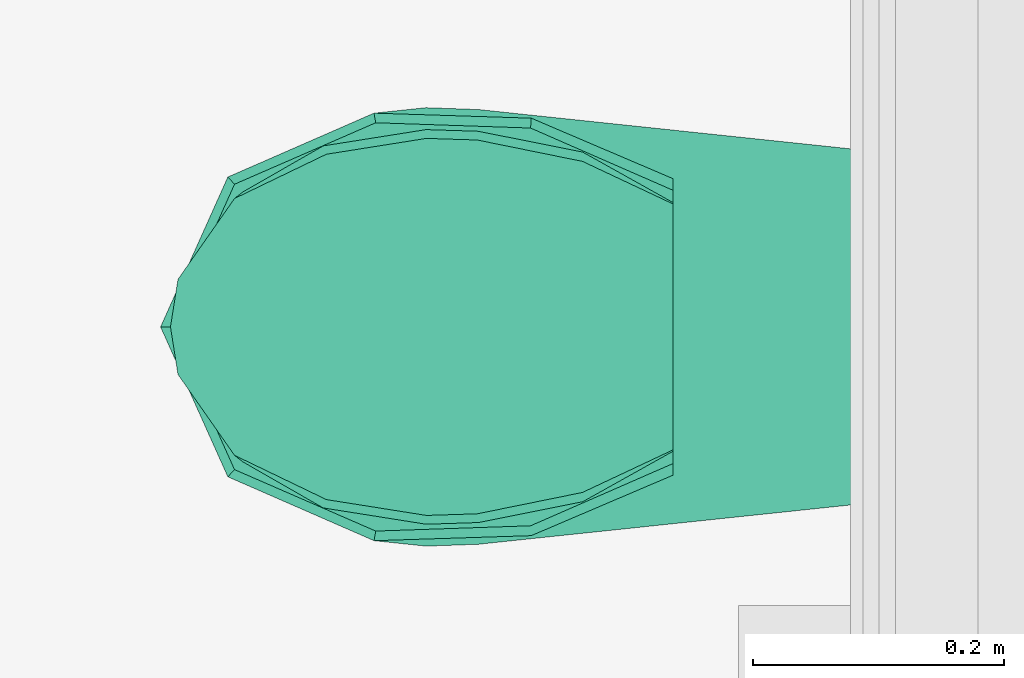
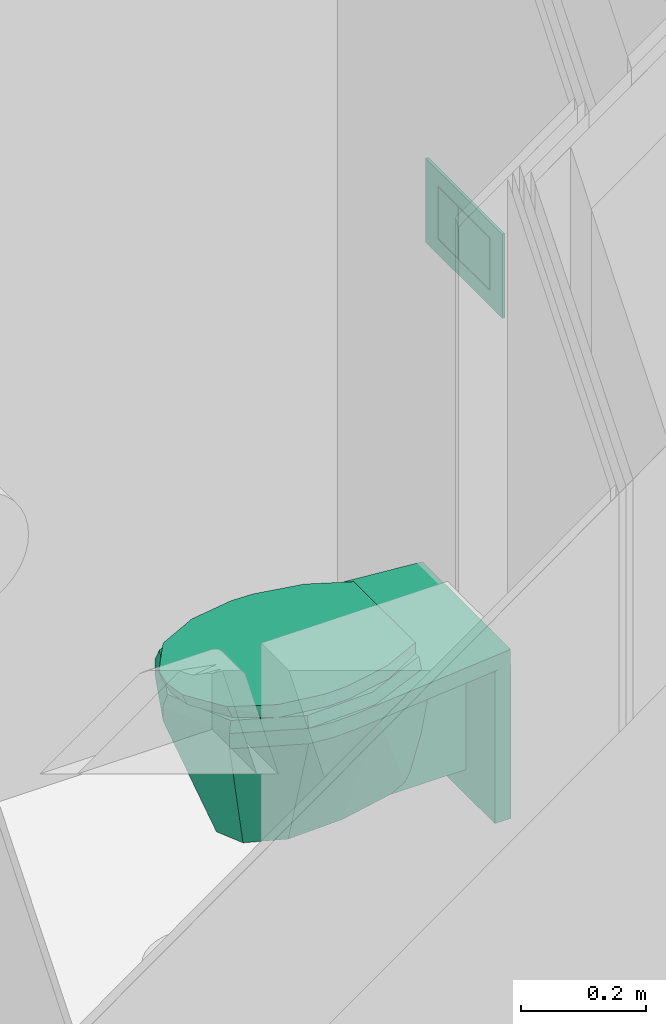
# One storey, part 243 of 301: 1 flow terminal.
"""IFC2X3 building model written with IfcOpenShell, lengths in millimetres."""

from ifc_helpers import new_model, entity, si_unit, converted_unit, derived_unit, money_unit, direction, frame, origin_with_axes, place, context, subcontext, project, spatial, faceted_brep, source, transform, mapped, type_object, element, save


model = new_model("IFC2X3")

# Units and contexts
model_context = context("Model", 3, precision=0.01, world=origin_with_axes(), true_north=direction((0.0, 1.0)))
body_context = subcontext(model_context, "Body", "Model", "MODEL_VIEW")
ifc_project = project(units=[si_unit("LENGTHUNIT", "METRE", prefix="MILLI"), si_unit("AREAUNIT", "SQUARE_METRE"), si_unit("VOLUMEUNIT", "CUBIC_METRE"), converted_unit("PLANEANGLEUNIT", "DEGREE", entity("IfcPlaneAngleMeasure", 0.0174532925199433), si_unit("PLANEANGLEUNIT", "RADIAN"), dimensions=[0, 0, 0, 0, 0, 0, 0]), money_unit("EUR"), converted_unit("TIMEUNIT", "Year", entity("IfcTimeMeasure", 31557600.0), si_unit("TIMEUNIT", "SECOND"), dimensions=[0, 0, 1, 0, 0, 0, 0]), si_unit("MASSUNIT", "GRAM", prefix="KILO"), si_unit("THERMODYNAMICTEMPERATUREUNIT", "DEGREE_CELSIUS"), si_unit("LUMINOUSINTENSITYUNIT", "LUMEN"), si_unit("ENERGYUNIT", "JOULE", prefix="MEGA"), derived_unit("THERMALCONDUCTANCEUNIT", [(si_unit("POWERUNIT", "WATT"), 1), (si_unit("LENGTHUNIT", "METRE"), -1), (si_unit("THERMODYNAMICTEMPERATUREUNIT", "KELVIN"), -1)]), derived_unit("SPECIFICHEATCAPACITYUNIT", [(si_unit("ENERGYUNIT", "JOULE"), 1), (si_unit("MASSUNIT", "GRAM", prefix="KILO"), -1), (si_unit("THERMODYNAMICTEMPERATUREUNIT", "KELVIN"), -1)]), derived_unit("MASSDENSITYUNIT", [(si_unit("MASSUNIT", "GRAM", prefix="KILO"), 1), (si_unit("VOLUMEUNIT", "CUBIC_METRE"), -1)])], contexts=[model_context])

# Site, building, storey
site_placement = place(None, frame((0.0, 0.0, 8650.0), z_axis=(0.0, 0.0, 1.0), x_axis=(1.0, 0.0, 0.0)))
site = spatial("IfcSite", under=ifc_project, at=site_placement, Name="43301:001:0844", CompositionType="ELEMENT")
building_placement = place(site_placement, origin_with_axes())
building = spatial("IfcBuilding", under=site, at=building_placement, Name="Kuressaare Ametikooli tuulikute mehaanikute õppekorpus", CompositionType="ELEMENT")
storey_placement = place(building_placement, origin_with_axes())
storey = spatial("IfcBuildingStorey", under=building, at=storey_placement, Name="1.korrus", CompositionType="ELEMENT", Elevation=0.0)

# Flow terminal
sanitary_terminal_type = type_object("IfcSanitaryTerminalType", Name="WC 27", PredefinedType="NOTDEFINED")
shared_shape = source(origin_with_axes(), body_context, "Body", "Brep", [
    faceted_brep([(-141.0283315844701, -29.31865370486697, 69.99999999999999), (-141.0283315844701, 0.4949050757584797, 69.99999999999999), (141.0283315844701, 0.4949050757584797, 69.99999999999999), (141.0283315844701, -29.31865370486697, 69.99999999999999), (-141.0283315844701, -29.31865370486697, 370.0), (-141.0283315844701, 0.4949050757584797, 370.0), (141.0283315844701, 0.4949050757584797, 370.0), (141.0283315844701, -29.31865370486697, 370.0)], [[[0, 1, 2, 3]], [[0, 4, 5, 1]], [[1, 5, 6, 2]], [[2, 6, 7, 3]], [[3, 7, 4, 0]], [[7, 6, 5, 4]]]),
    faceted_brep([(-101.7881776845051, -122.4661491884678, 370.0), (-164.8111927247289, -257.2969749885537, 370.0), (-170.4738719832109, -389.7973742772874, 370.0), (-119.554809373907, -506.3435444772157, 370.0), (0.0, -560.0, 370.0), (119.554809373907, -506.3435444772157, 370.0), (170.4738719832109, -389.7973742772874, 370.0), (164.8111927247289, -257.295981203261, 370.0), (101.7881776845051, -122.4661491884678, 370.0), (48.96817068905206, -87.43521908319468, 370.0), (48.96817068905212, -29.31865370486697, 370.0), (-48.96817068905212, -29.31865370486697, 370.0), (-48.96817068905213, -87.43521908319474, 370.0), (-63.65862189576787, -201.5126978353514, 370.0), (0.0, -179.8771255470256, 370.0), (63.65862189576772, -201.5126978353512, 370.0), (110.2599674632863, -260.6221805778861, 370.0), (127.3172437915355, -341.3672356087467, 370.0), (110.2599674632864, -422.1122906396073, 370.0), (63.65862189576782, -481.2217733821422, 370.0), (0.0, -502.8573456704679, 370.0), (-63.65862189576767, -481.2217733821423, 370.0), (-110.2599674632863, -422.1122906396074, 370.0), (-127.3172437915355, -341.3672356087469, 370.0), (-110.2599674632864, -260.6221805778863, 370.0), (-70.97348723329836, -270.8651255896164, 120.0), (-74.94382651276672, -372.4786779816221, 120.0), (-47.75865687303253, -440.0938417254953, 120.0), (0.0, -461.5278029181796, 120.0), (47.75865687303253, -440.0938417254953, 120.0), (74.94382651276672, -372.4786779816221, 120.0), (70.97348723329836, -270.8651255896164, 120.0), (48.96817068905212, -141.8100147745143, 135.0708656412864), (48.96817068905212, -132.9294031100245, 150.8349994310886), (48.96817068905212, -111.9632571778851, 220.0911688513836), (48.96817068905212, -168.852251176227, 120.0), (48.96817068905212, -29.31865370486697, 120.0), (-48.96817068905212, -29.31865370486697, 120.0), (-48.96817068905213, -168.852251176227, 120.0), (-48.96817068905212, -132.9294031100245, 150.8349994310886), (-24.48408534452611, -287.5770287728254, 170.0), (0.0, -279.2556548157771, 170.0), (24.48408534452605, -287.5770287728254, 170.0), (42.40767979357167, -310.3114452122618, 170.0), (48.96817068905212, -341.3672356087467, 170.0), (42.40767979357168, -372.4230260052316, 170.0), (24.48408534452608, -395.1574424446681, 170.0), (0.0, -403.4788164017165, 170.0), (-24.48408534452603, -395.1574424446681, 170.0), (-42.40767979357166, -372.4230260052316, 170.0), (-48.96817068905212, -341.3672356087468, 170.0), (-42.4076797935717, -310.311445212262, 170.0)], [[[0, 1, 2, 3, 4, 5, 6, 7, 8, 9, 10, 11, 12], [13, 14, 15, 16, 17, 18, 19, 20, 21, 22, 23, 24]], [[0, 25, 1]], [[1, 26, 2]], [[2, 27, 3]], [[3, 28, 4]], [[4, 29, 5]], [[5, 30, 6]], [[6, 31, 7]], [[8, 7, 32, 33]], [[8, 34, 9]], [[33, 32, 35, 36, 10, 9, 34]], [[10, 36, 37, 11]], [[12, 11, 37, 38, 39]], [[0, 12, 39]], [[13, 40, 41, 14]], [[14, 41, 42, 15]], [[15, 42, 43, 16]], [[16, 43, 44, 17]], [[17, 44, 45, 18]], [[18, 45, 46, 19]], [[19, 46, 47, 20]], [[20, 47, 48, 21]], [[21, 48, 49, 22]], [[22, 49, 50, 23]], [[23, 50, 51, 24]], [[24, 51, 40, 13]], [[25, 0, 39, 38]], [[25, 26, 1]], [[26, 27, 2]], [[27, 28, 3]], [[28, 29, 4]], [[29, 30, 5]], [[30, 31, 6]], [[7, 31, 35, 32]], [[8, 33, 34]], [[31, 30, 29, 28, 27, 26, 25, 38, 37, 36, 35]], [[40, 51, 50, 49, 48, 47, 46, 45, 44, 43, 42, 41]]]),
    faceted_brep([(174.8222455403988, -348.2949128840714, 370.0), (170.4738719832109, -389.7973742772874, 370.0), (119.554809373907, -506.3435444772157, 370.0), (0.0, -560.0, 370.0), (-119.554809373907, -506.3435444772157, 370.0), (-170.4738719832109, -389.7973742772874, 370.0), (-174.8222455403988, -348.2949128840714, 370.0), (-173.3473242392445, -306.5847503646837, 370.0), (-140.975445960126, 0.0, 370.0), (140.9734872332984, 0.0, 370.0), (173.3473242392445, -306.5847503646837, 370.0), (-83.6883665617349, -472.7512164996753, 370.0), (0.0, -510.3107353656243, 370.0), (83.6883665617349, -472.7512164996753, 370.0), (119.3317103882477, -391.1688973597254, 370.0), (122.3755718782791, -362.1171743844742, 370.0), (121.3431269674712, -332.9200606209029, 370.0), (98.68144106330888, -201.7886999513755, 370.0), (-98.68281217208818, -201.7886999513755, 370.0), (-121.3431269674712, -332.9200606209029, 370.0), (-122.3755718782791, -362.1171743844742, 370.0), (-119.3317103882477, -391.1688973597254, 370.0), (174.8222455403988, -348.2949128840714, 400.0), (170.4738719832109, -389.7973742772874, 400.0), (119.554809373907, -506.3435444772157, 400.0), (0.0, -560.0, 400.0), (-119.554809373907, -506.3435444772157, 400.0), (-170.4738719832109, -389.7973742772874, 400.0), (-174.8222455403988, -348.2949128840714, 400.0), (-173.3473242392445, -306.5847503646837, 400.0), (-140.975445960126, 0.0, 400.0), (140.9734872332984, 0.0, 400.0), (173.3473242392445, -306.5847503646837, 400.0), (0.0, -510.3107353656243, 400.0), (-83.6883665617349, -472.7512164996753, 400.0), (83.6883665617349, -472.7512164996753, 400.0), (119.3317103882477, -391.1688973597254, 400.0), (122.3755718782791, -362.1171743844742, 400.0), (121.3431269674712, -332.9200606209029, 400.0), (98.68144106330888, -201.7886999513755, 400.0), (-98.68281217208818, -201.7886999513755, 400.0), (-121.3431269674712, -332.9200606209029, 400.0), (-122.3755718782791, -362.1171743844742, 400.0), (-119.3317103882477, -391.1688973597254, 400.0)], [[[0, 1, 2, 3, 4, 5, 6, 7, 8, 9, 10], [11, 12, 13, 14, 15, 16, 17, 18, 19, 20, 21]], [[22, 23, 1, 0]], [[23, 24, 2, 1]], [[24, 25, 3, 2]], [[25, 26, 4, 3]], [[26, 27, 5, 4]], [[27, 28, 6, 5]], [[28, 29, 7, 6]], [[29, 30, 8, 7]], [[30, 31, 9, 8]], [[31, 32, 10, 9]], [[32, 22, 0, 10]], [[33, 12, 11, 34]], [[35, 13, 12, 33]], [[36, 14, 13, 35]], [[37, 15, 14, 36]], [[38, 16, 15, 37]], [[39, 17, 16, 38]], [[40, 18, 17, 39]], [[41, 19, 18, 40]], [[42, 20, 19, 41]], [[43, 21, 20, 42]], [[34, 11, 21, 43]], [[31, 30, 29, 28, 27, 26, 25, 24, 23, 22, 32], [40, 39, 38, 37, 36, 35, 33, 34, 43, 42, 41]]]),
    faceted_brep([(-170.4738719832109, -389.7973742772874, 400.0), (-166.4663168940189, -264.4263906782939, 400.0), (-118.2121021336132, -151.3163525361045, 400.0), (118.2121021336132, -151.3163525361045, 400.0), (166.4663168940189, -264.4263906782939, 400.0), (170.4738719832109, -389.7973742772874, 400.0), (119.554809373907, -506.3435444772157, 400.0), (0.0, -560.0, 400.0), (-119.554809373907, -506.3435444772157, 400.0), (-87.07689659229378, -411.9963613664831, 400.0), (-76.4888004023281, -438.0775703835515, 400.0), (-62.06856874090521, -459.4262123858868, 400.0), (-44.26109835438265, -474.4067566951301, 400.0), (-23.02579943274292, -483.9023013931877, 400.0), (0.0, -487.1544663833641, 400.0), (23.02579943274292, -483.9023013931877, 400.0), (44.26109835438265, -474.4067566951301, 400.0), (62.06856874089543, -459.4262123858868, 400.0), (76.4888004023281, -438.0775703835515, 400.0), (87.07689659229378, -411.9963613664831, 400.0), (94.51085540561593, -382.2763031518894, 400.0), (97.71606496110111, -351.7983255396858, 400.0), (96.61425296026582, -320.7429308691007, 400.0), (90.99294096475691, -286.7942733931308, 400.0), (81.3289539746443, -253.3384220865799, 400.0), (68.75412876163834, -223.4663237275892, 400.0), (-68.75448552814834, -223.4663237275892, 400.0), (-81.32886310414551, -253.3381075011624, 400.0), (-90.99294096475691, -286.7942733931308, 400.0), (-96.61425296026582, -320.7429308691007, 400.0), (-97.71606496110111, -351.7983255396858, 400.0), (-94.51085540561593, -382.2763031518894, 400.0), (-158.5902763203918, -264.9332211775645, 420.0000000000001), (-108.940468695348, -151.3163525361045, 420.0000000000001), (108.940468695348, -151.3163525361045, 420.0000000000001), (158.5902763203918, -264.9332211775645, 420.0000000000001), (162.8034977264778, -388.4070686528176, 420.0000000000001), (113.7912556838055, -501.0248055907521, 420.0000000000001), (0.0, -552.0944379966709, 420.0000000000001), (-113.7912556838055, -501.0248055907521, 420.0000000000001), (-162.8034977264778, -388.4070686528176, 420.0000000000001), (-76.4888004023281, -438.0775703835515, 420.0000000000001), (-87.07689659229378, -411.9963613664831, 420.0000000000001), (-62.06856874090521, -459.4262123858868, 420.0000000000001), (-44.26109835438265, -474.4067566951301, 420.0000000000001), (-23.02579943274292, -483.9023013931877, 420.0000000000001), (0.0, -487.1544663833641, 420.0000000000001), (23.02579943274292, -483.9023013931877, 420.0000000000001), (44.26109835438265, -474.4067566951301, 420.0000000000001), (62.06856874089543, -459.4262123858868, 420.0000000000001), (76.4888004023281, -438.0775703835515, 420.0000000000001), (87.07689659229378, -411.9963613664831, 420.0000000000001), (94.51085540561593, -382.2763031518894, 420.0000000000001), (97.71606496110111, -351.7983255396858, 420.0000000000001), (96.61425296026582, -320.7429308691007, 420.0000000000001), (90.99294096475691, -286.7942733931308, 420.0000000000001), (81.3289539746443, -253.3384220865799, 420.0000000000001), (68.75412876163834, -223.4663237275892, 420.0000000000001), (-68.75448552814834, -223.4663237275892, 420.0000000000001), (-81.32886310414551, -253.3381075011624, 420.0000000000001), (-90.99294096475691, -286.7942733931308, 420.0000000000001), (-96.61425296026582, -320.7429308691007, 420.0000000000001), (-97.71606496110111, -351.7983255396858, 420.0000000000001), (-94.51085540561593, -382.2763031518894, 420.0000000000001)], [[[0, 1, 2, 3, 4, 5, 6, 7, 8], [9, 10, 11, 12, 13, 14, 15, 16, 17, 18, 19, 20, 21, 22, 23, 24, 25, 26, 27, 28, 29, 30, 31]], [[0, 32, 1]], [[1, 33, 2]], [[3, 2, 33, 34]], [[3, 35, 4]], [[4, 36, 5]], [[5, 37, 6]], [[6, 38, 7]], [[7, 39, 8]], [[8, 40, 0]], [[41, 10, 9, 42]], [[43, 11, 10, 41]], [[44, 12, 11, 43]], [[45, 13, 12, 44]], [[46, 14, 13, 45]], [[47, 15, 14, 46]], [[48, 16, 15, 47]], [[49, 17, 16, 48]], [[50, 18, 17, 49]], [[51, 19, 18, 50]], [[52, 20, 19, 51]], [[53, 21, 20, 52]], [[54, 22, 21, 53]], [[55, 23, 22, 54]], [[56, 24, 23, 55]], [[57, 25, 24, 56]], [[58, 26, 25, 57]], [[59, 27, 26, 58]], [[60, 28, 27, 59]], [[61, 29, 28, 60]], [[62, 30, 29, 61]], [[63, 31, 30, 62]], [[42, 9, 31, 63]], [[0, 40, 32]], [[1, 32, 33]], [[34, 33, 32, 40, 39, 38, 37, 36, 35], [60, 59, 58, 57, 56, 55, 54, 53, 52, 51, 50, 49, 48, 47, 46, 45, 44, 43, 41, 42, 63, 62, 61]], [[3, 34, 35]], [[4, 35, 36]], [[5, 36, 37]], [[6, 37, 38]], [[7, 38, 39]], [[8, 39, 40]]]),
    faceted_brep([(107.5993284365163, -494.4181209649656, 420.0000000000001), (37.93662119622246, -546.1188070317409, 440.0000000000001), (39.85813221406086, -538.8154789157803, 420.0000000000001), (102.412130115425, -501.0248055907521, 440.0000000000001), (0.0, -552.0944379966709, 440.0000000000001), (0.0, -545.0932206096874, 420.0000000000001), (-39.85813221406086, -538.8154789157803, 420.0000000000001), (-107.5993284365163, -494.4181209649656, 420.0000000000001), (-144.3513116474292, -430.2603362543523, 420.0000000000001), (-157.3400209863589, -348.2949128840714, 420.0000000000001), (-156.01259181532, -306.5847503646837, 420.0000000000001), (-139.3844700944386, -223.3443004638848, 420.0000000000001), (-99.17339219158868, -151.3163525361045, 420.0000000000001), (99.17339219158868, -151.3163525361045, 420.0000000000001), (139.3844700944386, -223.3443004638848, 420.0000000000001), (156.01259181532, -306.5847503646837, 420.0000000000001), (157.3400209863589, -348.2949128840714, 420.0000000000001), (144.3504302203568, -430.2603362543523, 420.0000000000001), (137.6912486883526, -427.7848170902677, 440.0000000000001), (150.3317943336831, -348.0176467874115, 440.0000000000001), (149.0405036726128, -307.4274802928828, 440.0000000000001), (132.0192654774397, -223.5758524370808, 440.0000000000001), (98.04642182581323, -151.3163525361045, 440.0000000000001), (-98.04642182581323, -151.3163525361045, 440.0000000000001), (-132.0192654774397, -223.5758524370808, 440.0000000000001), (-149.0405036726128, -307.4274802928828, 440.0000000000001), (-150.3317943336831, -348.0176467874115, 440.0000000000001), (-137.6912486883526, -427.7848170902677, 440.0000000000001), (-102.412130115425, -501.0248055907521, 440.0000000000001), (-37.93662119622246, -546.1188070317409, 440.0000000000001)], [[[0, 1, 2]], [[0, 3, 1]], [[2, 1, 4]], [[0, 2, 5, 6, 7, 8, 9, 10, 11, 12, 13, 14, 15, 16, 17]], [[17, 3, 0]], [[3, 18, 19, 20, 21, 22, 23, 24, 25, 26, 27, 28, 29, 4, 1]], [[2, 4, 5]], [[5, 29, 6]], [[6, 28, 7]], [[7, 27, 8]], [[8, 26, 9]], [[9, 25, 10]], [[10, 24, 11]], [[11, 23, 12]], [[12, 23, 22, 13]], [[13, 21, 14]], [[14, 20, 15]], [[15, 19, 16]], [[16, 18, 17]], [[17, 18, 3]], [[16, 19, 18]], [[15, 20, 19]], [[14, 21, 20]], [[13, 22, 21]], [[11, 24, 23]], [[10, 25, 24]], [[9, 26, 25]], [[8, 27, 26]], [[7, 28, 27]], [[6, 29, 28]], [[5, 4, 29]]]),
    faceted_brep([(83.0, 0.0, 1036.0), (83.0, -5.0, 1036.0), (83.0, -4.999999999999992, 1170.0), (83.0, 0.0, 1170.0), (123.0, 0.0, 1036.0), (123.0, -5.0, 1036.0), (123.0, -4.999999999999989, 1200.0), (-123.0, -4.999999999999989, 1200.0), (-123.0, -5.0, 1036.0), (-83.0, -5.0, 1036.0), (-83.0, -4.999999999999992, 1170.0), (-83.0, 0.0, 1170.0), (-83.0, 0.0, 1036.0), (-123.0, 0.0, 1036.0), (-123.0, 0.0, 1200.0), (123.0, 0.0, 1200.0)], [[[0, 1, 2, 3]], [[4, 5, 1, 0]], [[1, 5, 6, 7, 8, 9, 10, 2]], [[3, 2, 10, 11]], [[0, 3, 11, 12, 13, 14, 15, 4]], [[15, 6, 5, 4]], [[14, 7, 6, 15]], [[13, 8, 7, 14]], [[12, 9, 8, 13]], [[11, 10, 9, 12]]]),
    faceted_brep([(-83.0, 0.0, 1036.0), (-83.0, -5.0, 1036.0), (-83.0, -4.999999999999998, 1066.0), (-83.0, 0.0, 1066.0), (83.0, 0.0, 1036.0), (83.0, -5.0, 1036.0), (83.0, -4.999999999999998, 1066.0), (83.0, 0.0, 1066.0)], [[[0, 1, 2, 3]], [[4, 5, 1, 0]], [[1, 5, 6, 2]], [[3, 2, 6, 7]], [[0, 3, 7, 4]], [[7, 6, 5, 4]]]),
    faceted_brep([(81.0, 0.0, 1068.0), (81.0, -4.999999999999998, 1068.0), (-17.0, -4.999999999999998, 1068.0), (-17.0, 0.0, 1068.0), (81.0, 0.0, 1168.0), (81.0, -4.999999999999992, 1168.0), (-17.0, -4.999999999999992, 1168.0), (-17.0, 0.0, 1168.0)], [[[0, 1, 2, 3]], [[4, 5, 1, 0]], [[1, 5, 6, 2]], [[3, 2, 6, 7]], [[0, 3, 7, 4]], [[7, 6, 5, 4]]]),
    faceted_brep([(-19.0, 0.0, 1168.0), (-19.0, -4.999999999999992, 1168.0), (-19.0, -4.999999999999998, 1068.0), (-19.0, 0.0, 1068.0), (-81.0, 0.0, 1168.0), (-81.0, -4.999999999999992, 1168.0), (-81.0, -4.999999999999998, 1068.0), (-81.0, 0.0, 1068.0)], [[[0, 1, 2, 3]], [[4, 5, 1, 0]], [[1, 5, 6, 2]], [[3, 2, 6, 7]], [[0, 3, 7, 4]], [[7, 6, 5, 4]]]),
])
flow_terminal_placement = place(storey_placement, frame((111685.5125403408, 18649.8358830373, 0.0), z_axis=(0.0, 0.0, 1.0), x_axis=(-1.339727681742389e-07, -0.999999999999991, 0.0)))
element("IfcFlowTerminal", 1, at=flow_terminal_placement, inside=storey, type_object=sanitary_terminal_type, Name="WC1", context=body_context, shape_type="MappedRepresentation", body=[
    mapped(shared_shape, transform((0.0, 0.0, 0.0))),
])

save(model, "model.ifc")
